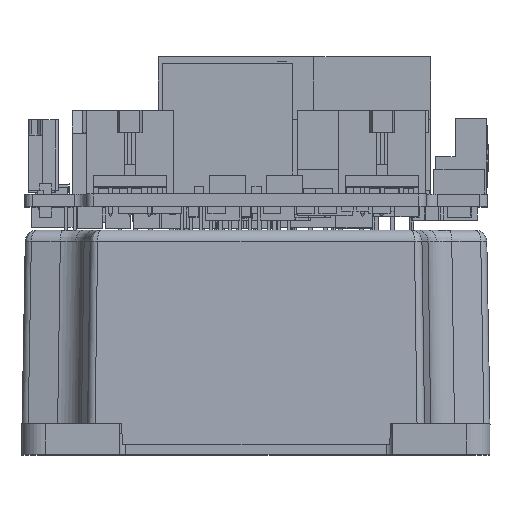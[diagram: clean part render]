
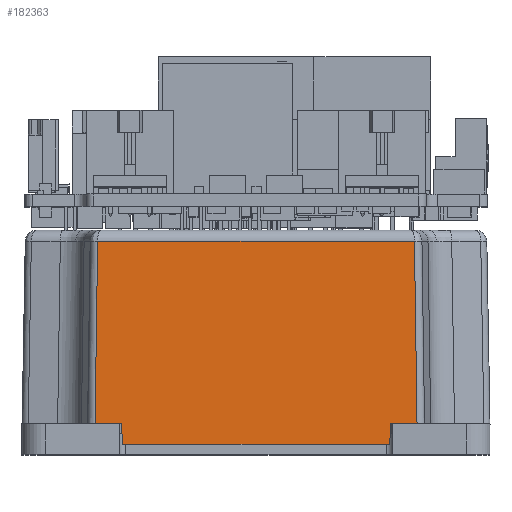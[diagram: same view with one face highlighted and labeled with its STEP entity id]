
A CAD part, top view. The second image highlights one B-rep face of the part: STEP entity #182363.
In plain terms, the highlighted planar face has unit normal (0, 0.018, 1).
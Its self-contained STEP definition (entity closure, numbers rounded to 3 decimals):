
#3667 = PLANE ( 'NONE',  #127844 ) ;
#8003 = CARTESIAN_POINT ( 'NONE',  ( -37.694, 2.349, 46.599 ) ) ;
#8477 = DIRECTION ( 'NONE',  ( -1., 0., 0. ) ) ;
#8498 = CARTESIAN_POINT ( 'NONE',  ( -37.737, 4.852, 46.555 ) ) ;
#16098 = ORIENTED_EDGE ( 'NONE', *, *, #145623, .T. ) ;
#18500 = DIRECTION ( 'NONE',  ( 0., 0.017, 1. ) ) ;
#22898 = CARTESIAN_POINT ( 'NONE',  ( -37.494, 2.152, 46.602 ) ) ;
#28865 = EDGE_CURVE ( 'NONE', #65910, #131618, #169750, .T. ) ;
#30728 = ORIENTED_EDGE ( 'NONE', *, *, #82383, .T. ) ;
#40704 = LINE ( 'NONE', #150385, #153908 ) ;
#43094 = LINE ( 'NONE', #84650, #73117 ) ;
#43180 = CARTESIAN_POINT ( 'NONE',  ( -2.787, 2.349, 46.599 ) ) ;
#45816 = ORIENTED_EDGE ( 'NONE', *, *, #28865, .T. ) ;
#47462 = EDGE_CURVE ( 'NONE', #137489, #90253, #55704, .T. ) ;
#50621 = CARTESIAN_POINT ( 'NONE',  ( -37.494, 2.152, 46.602 ) ) ;
#52292 = VECTOR ( 'NONE', #181849, 1000. ) ;
#52409 = VECTOR ( 'NONE', #165383, 1000. ) ;
#53724 = EDGE_LOOP ( 'NONE', ( #140926, #61556, #30728, #16098, #130836, #124728, #45816, #179708, #152791, #140278 ) ) ;
#55704 = LINE ( 'NONE', #190395, #168870 ) ;
#58022 = DIRECTION ( 'NONE',  ( -1., 0., 0. ) ) ;
#58153 = EDGE_CURVE ( 'NONE', #137489, #65910, #126226, .T. ) ;
#59298 = FACE_OUTER_BOUND ( 'NONE', #53724, .T. ) ;
#61556 = ORIENTED_EDGE ( 'NONE', *, *, #114528, .T. ) ;
#65910 = VERTEX_POINT ( 'NONE', #116258 ) ;
#68719 = VECTOR ( 'NONE', #8477, 1000. ) ;
#68776 = CARTESIAN_POINT ( 'NONE',  ( -2.987, 2.152, 46.602 ) ) ;
#71765 = VERTEX_POINT ( 'NONE', #88129 ) ;
#73117 = VECTOR ( 'NONE', #144003, 1000. ) ;
#74245 = CARTESIAN_POINT ( 'NONE',  ( -2.755, 4.167, 46.567 ) ) ;
#76961 = CARTESIAN_POINT ( 'NONE',  ( 0.738, 5.459, 46.544 ) ) ;
#78574 = CARTESIAN_POINT ( 'NONE',  ( -37.739, 4.927, 46.554 ) ) ;
#79408 = VECTOR ( 'NONE', #83039, 1000. ) ;
#81693 = CARTESIAN_POINT ( 'NONE',  ( -37.609, 2.152, 46.602 ) ) ;
#82164 = CARTESIAN_POINT ( 'NONE',  ( -2.79, 2.152, 46.602 ) ) ;
#82383 = EDGE_CURVE ( 'NONE', #190587, #71765, #162536, .T. ) ;
#83039 = DIRECTION ( 'NONE',  ( -1., 0., 0. ) ) ;
#84650 = CARTESIAN_POINT ( 'NONE',  ( -41.227, 4.841, 46.555 ) ) ;
#86367 = VERTEX_POINT ( 'NONE', #113141 ) ;
#88129 = CARTESIAN_POINT ( 'NONE',  ( -40.89, 28.619, 46.14 ) ) ;
#89086 = DIRECTION ( 'NONE',  ( -0.017, -1., 0.017 ) ) ;
#90253 = VERTEX_POINT ( 'NONE', #119605 ) ;
#92467 = VERTEX_POINT ( 'NONE', #68776 ) ;
#97695 = CARTESIAN_POINT ( 'NONE',  ( -2.743, 4.852, 46.555 ) ) ;
#101910 = CARTESIAN_POINT ( 'NONE',  ( -2.987, 2.152, 46.602 ) ) ;
#113141 = CARTESIAN_POINT ( 'NONE',  ( 0.747, 4.852, 46.555 ) ) ;
#114528 = EDGE_CURVE ( 'NONE', #86367, #190587, #165616, .T. ) ;
#114810 = EDGE_CURVE ( 'NONE', #86367, #144468, #40704, .T. ) ;
#116258 = CARTESIAN_POINT ( 'NONE',  ( -37.694, 2.349, 46.599 ) ) ;
#119605 = CARTESIAN_POINT ( 'NONE',  ( -41.227, 4.852, 46.555 ) ) ;
#121899 = DIRECTION ( 'NONE',  ( 0., -1., 0.017 ) ) ;
#124728 = ORIENTED_EDGE ( 'NONE', *, *, #58153, .T. ) ;
#124754 = VECTOR ( 'NONE', #89086, 1000. ) ;
#125235 = CARTESIAN_POINT ( 'NONE',  ( -2.787, 2.349, 46.599 ) ) ;
#125425 = CARTESIAN_POINT ( 'NONE',  ( 0.409, 28.619, 46.14 ) ) ;
#126226 = LINE ( 'NONE', #78574, #52292 ) ;
#127844 = AXIS2_PLACEMENT_3D ( 'NONE', #165752, #18500, #121899 ) ;
#129363 = LINE ( 'NONE', #74245, #124754 ) ;
#130648 = VERTEX_POINT ( 'NONE', #125235 ) ;
#130836 = ORIENTED_EDGE ( 'NONE', *, *, #47462, .F. ) ;
#131618 = VERTEX_POINT ( 'NONE', #50621 ) ;
#131646 = CARTESIAN_POINT ( 'NONE',  ( -2.789, 2.233, 46.601 ) ) ;
#133683 = EDGE_CURVE ( 'NONE', #92467, #130648, #152033, .T. ) ;
#137489 = VERTEX_POINT ( 'NONE', #8498 ) ;
#140278 = ORIENTED_EDGE ( 'NONE', *, *, #142352, .F. ) ;
#140926 = ORIENTED_EDGE ( 'NONE', *, *, #114810, .F. ) ;
#142352 = EDGE_CURVE ( 'NONE', #144468, #130648, #129363, .T. ) ;
#144003 = DIRECTION ( 'NONE',  ( -0.014, -1., 0.017 ) ) ;
#144468 = VERTEX_POINT ( 'NONE', #97695 ) ;
#145623 = EDGE_CURVE ( 'NONE', #71765, #90253, #43094, .T. ) ;
#150385 = CARTESIAN_POINT ( 'NONE',  ( -42.04, 4.852, 46.555 ) ) ;
#152033 =( BOUNDED_CURVE ( )  B_SPLINE_CURVE ( 3, ( #101910, #190394, #131646, #43180 ),
 .UNSPECIFIED., .F., .F. ) 
 B_SPLINE_CURVE_WITH_KNOTS ( ( 4, 4 ),
 ( 0., 1.553 ),
 .UNSPECIFIED. ) 
 CURVE ( )  GEOMETRIC_REPRESENTATION_ITEM ( )  RATIONAL_B_SPLINE_CURVE ( ( 1., 0.809, 0.809, 1. ) ) 
 REPRESENTATION_ITEM ( '' )  );
#152791 = ORIENTED_EDGE ( 'NONE', *, *, #133683, .T. ) ;
#153908 = VECTOR ( 'NONE', #165299, 1000. ) ;
#160820 = EDGE_CURVE ( 'NONE', #92467, #131618, #186509, .T. ) ;
#162536 = LINE ( 'NONE', #171449, #79408 ) ;
#165299 = DIRECTION ( 'NONE',  ( -1., 0., 0. ) ) ;
#165383 = DIRECTION ( 'NONE',  ( -0.014, 1., -0.017 ) ) ;
#165616 = LINE ( 'NONE', #76961, #52409 ) ;
#165752 = CARTESIAN_POINT ( 'NONE',  ( -42.04, 4.852, 46.555 ) ) ;
#168870 = VECTOR ( 'NONE', #58022, 1000. ) ;
#169750 =( BOUNDED_CURVE ( )  B_SPLINE_CURVE ( 3, ( #8003, #184960, #81693, #22898 ),
 .UNSPECIFIED., .F., .F. ) 
 B_SPLINE_CURVE_WITH_KNOTS ( ( 4, 4 ),
 ( 4.73, 6.283 ),
 .UNSPECIFIED. ) 
 CURVE ( )  GEOMETRIC_REPRESENTATION_ITEM ( )  RATIONAL_B_SPLINE_CURVE ( ( 1., 0.809, 0.809, 1. ) ) 
 REPRESENTATION_ITEM ( '' )  );
#171449 = CARTESIAN_POINT ( 'NONE',  ( -41.682, 28.619, 46.14 ) ) ;
#179708 = ORIENTED_EDGE ( 'NONE', *, *, #160820, .F. ) ;
#181849 = DIRECTION ( 'NONE',  ( 0.017, -1., 0.017 ) ) ;
#182363 = ADVANCED_FACE ( 'NONE', ( #59298 ), #3667, .T. ) ;
#184960 = CARTESIAN_POINT ( 'NONE',  ( -37.692, 2.233, 46.601 ) ) ;
#186509 = LINE ( 'NONE', #82164, #68719 ) ;
#190394 = CARTESIAN_POINT ( 'NONE',  ( -2.871, 2.152, 46.602 ) ) ;
#190395 = CARTESIAN_POINT ( 'NONE',  ( -42.04, 4.852, 46.555 ) ) ;
#190587 = VERTEX_POINT ( 'NONE', #125425 ) ;
